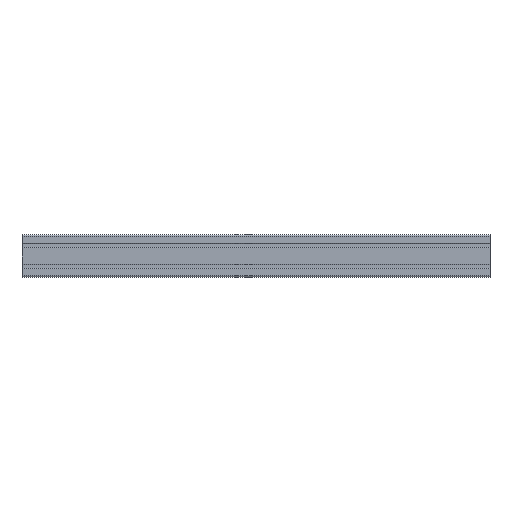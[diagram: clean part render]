
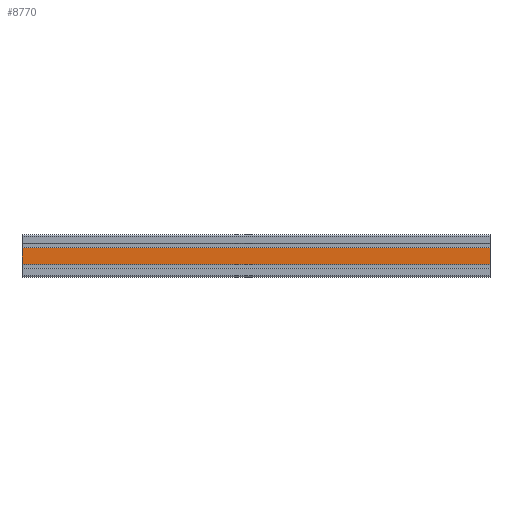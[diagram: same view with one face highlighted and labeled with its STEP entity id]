
A CAD part, top view. The second image highlights one B-rep face of the part: STEP entity #8770.
In plain terms, the highlighted planar face has unit normal (0, 0, 1).
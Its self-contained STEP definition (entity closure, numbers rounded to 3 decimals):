
#208 = EDGE_CURVE ( 'NONE', #994, #2252, #11786, .T. ) ;
#304 = DIRECTION ( 'NONE',  ( 0., -1., 0. ) ) ;
#490 = CARTESIAN_POINT ( 'NONE',  ( 1000., 18.1, 22.5 ) ) ;
#957 = EDGE_LOOP ( 'NONE', ( #3264, #5526, #10040, #1885 ) ) ;
#994 = VERTEX_POINT ( 'NONE', #490 ) ;
#1161 = DIRECTION ( 'NONE',  ( -1., 0., 0. ) ) ;
#1434 = VECTOR ( 'NONE', #11614, 1000. ) ;
#1813 = DIRECTION ( 'NONE',  ( 0., -1., 0. ) ) ;
#1885 = ORIENTED_EDGE ( 'NONE', *, *, #9155, .T. ) ;
#2252 = VERTEX_POINT ( 'NONE', #10813 ) ;
#2290 = AXIS2_PLACEMENT_3D ( 'NONE', #6493, #11810, #4507 ) ;
#2308 = CARTESIAN_POINT ( 'NONE',  ( 1000., -18.1, 22.5 ) ) ;
#2651 = CARTESIAN_POINT ( 'NONE',  ( 1000., 18.1, 22.5 ) ) ;
#3264 = ORIENTED_EDGE ( 'NONE', *, *, #3818, .T. ) ;
#3818 = EDGE_CURVE ( 'NONE', #7608, #4725, #7597, .T. ) ;
#4258 = CARTESIAN_POINT ( 'NONE',  ( 0., 18.1, 22.5 ) ) ;
#4507 = DIRECTION ( 'NONE',  ( 0., 1., 0. ) ) ;
#4724 = VECTOR ( 'NONE', #1813, 1000. ) ;
#4725 = VERTEX_POINT ( 'NONE', #11775 ) ;
#5526 = ORIENTED_EDGE ( 'NONE', *, *, #7393, .F. ) ;
#5888 = LINE ( 'NONE', #10454, #9989 ) ;
#6493 = CARTESIAN_POINT ( 'NONE',  ( 1000., 18.1, 22.5 ) ) ;
#7393 = EDGE_CURVE ( 'NONE', #2252, #4725, #10712, .T. ) ;
#7597 = LINE ( 'NONE', #10265, #7869 ) ;
#7608 = VERTEX_POINT ( 'NONE', #4258 ) ;
#7869 = VECTOR ( 'NONE', #304, 1000. ) ;
#8770 = ADVANCED_FACE ( 'NONE', ( #11136 ), #9292, .F. ) ;
#9155 = EDGE_CURVE ( 'NONE', #994, #7608, #5888, .T. ) ;
#9292 = PLANE ( 'NONE',  #2290 ) ;
#9989 = VECTOR ( 'NONE', #1161, 1000. ) ;
#10040 = ORIENTED_EDGE ( 'NONE', *, *, #208, .F. ) ;
#10265 = CARTESIAN_POINT ( 'NONE',  ( 0., 18.1, 22.5 ) ) ;
#10454 = CARTESIAN_POINT ( 'NONE',  ( 1000., 18.1, 22.5 ) ) ;
#10712 = LINE ( 'NONE', #2308, #1434 ) ;
#10813 = CARTESIAN_POINT ( 'NONE',  ( 1000., -18.1, 22.5 ) ) ;
#11136 = FACE_OUTER_BOUND ( 'NONE', #957, .T. ) ;
#11614 = DIRECTION ( 'NONE',  ( -1., 0., 0. ) ) ;
#11775 = CARTESIAN_POINT ( 'NONE',  ( 0., -18.1, 22.5 ) ) ;
#11786 = LINE ( 'NONE', #2651, #4724 ) ;
#11810 = DIRECTION ( 'NONE',  ( 0., 0., -1. ) ) ;
